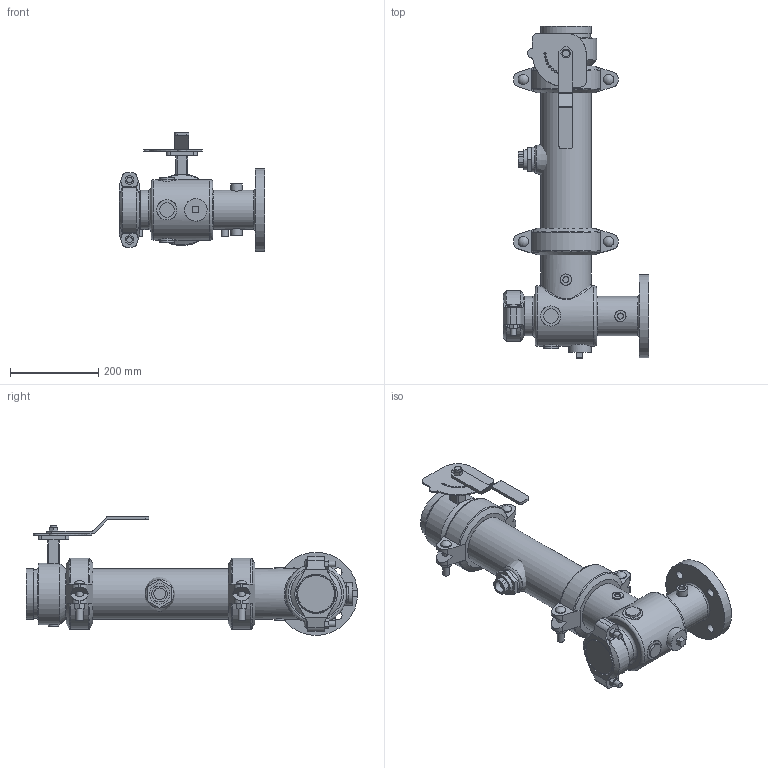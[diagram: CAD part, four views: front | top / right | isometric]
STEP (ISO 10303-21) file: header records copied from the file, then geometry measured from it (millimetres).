
FILE_DESCRIPTION(/* description */ ('VIC SVI PUMP DROP HORZ S/391 (OGSxFLG)','CAx-IF Rec.Pracs.---Representation and Presentation of Product Manufacturing Information (PMI)---4.0---2014-10-13'),/* implementation_level */ '2;1');
FILE_NAME(/* name */ 'C:\Users\Vjadhav\AppData\Roaming\Autodesk\ApplicationPlugins\Victaulic.Temp\A952\Victaulic_IPS_SVI_CL 150_Series 391 (OGSxFLG)_04.0x02.5 (100x65).stp',/* time_stamp */ '2021-04-09T17:53:50+05:00',/* author */ ('kkamble'),/* organization */ ('Victaulic'),/* preprocessor_version */ 'ST-DEVELOPER v17.2',/* originating_system */ 'Autodesk Inventor 2019',/* authorisation */ '');
FILE_SCHEMA (('AP242_MANAGED_MODEL_BASED_3D_ENGINEERING_MIM_LF { 1 0 10303 442 1 1 4 }'));
Length unit declared in the file: inch
Products named in the file (9): 391-04.0x02.5; 731D-04.0x02.5; 731D-04.0x02.5_1; 731D-04.0; 07-03.0; PIPE-04.0; 177N-04.0; 761-04.0; 923-04.0x0.75
Assembly tree (9 placements, depth 3):
  391-04.0x02.5
    731D-04.0x02.5
      731D-04.0x02.5_1
      731D-04.0
      07-03.0
    177N-04.0  x2
    PIPE-04.0
    761-04.0
    923-04.0x0.75
Bounding box: 330.2 x 752.09 x 268.99 mm (x, y, z)
Volume: 5637696.7 mm3; surface area: 1039429.9 mm2
Topology: 8 solids, 11 shells, 526 faces, 1366 edges, 921 vertices
Faces by surface type: plane 297, cylinder 189, torus 17, cone 16, sphere 6, bspline 1
Full cylindrical faces by diameter (mm): 4.826 x10, 8.636 x4, 12.7 x4, 13.716 x4, 14.986 x2, 15.875 x4, 19.05 x4, 22.225 x2, 22.86 x1, 23.495 x4, 25.4 x4, 26.67 x1, 33.02 x3, 45.974 x2, 50.8 x1, 55.118 x1, 55.626 x1, 63.5 x1, 65.278 x1, 67.056 x1, 72.898 x1, 82.55 x1, 84.938 x2, 88.9 x6, 96.52 x1, 101.6 x2, 102.26 x2, 110.084 x5, 114.3 x13, 137.16 x1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
Entity records: 15311 total; most frequent: CARTESIAN_POINT 3381, DIRECTION 2452, ORIENTED_EDGE 2252, EDGE_CURVE 1126, AXIS2_PLACEMENT_3D 933, VERTEX_POINT 762, LINE 586, VECTOR 586
